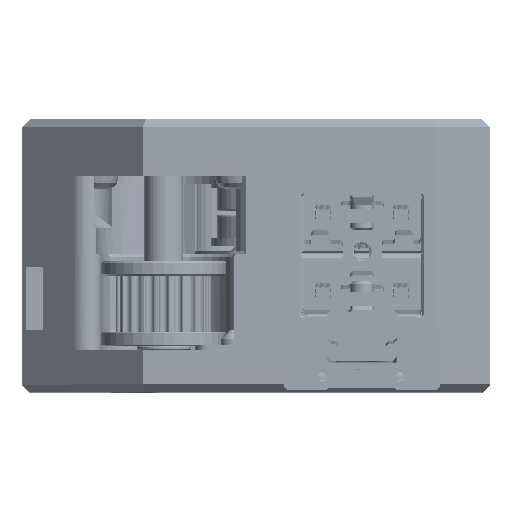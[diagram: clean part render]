
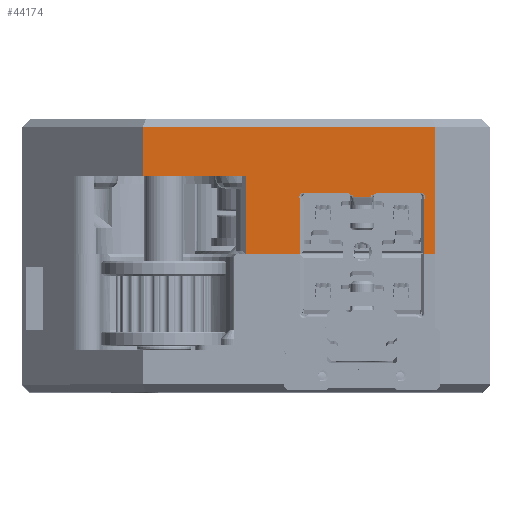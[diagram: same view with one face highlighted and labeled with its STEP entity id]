
A CAD part, top view. The second image highlights one B-rep face of the part: STEP entity #44174.
In plain terms, the highlighted planar face has unit normal (0, 0, 1).
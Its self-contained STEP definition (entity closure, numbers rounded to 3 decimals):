
#39=ELLIPSE('',#48546,0.227,0.1);
#40=ELLIPSE('',#48547,0.227,0.1);
#5403=FACE_OUTER_BOUND('',#7972,.T.);
#7972=EDGE_LOOP('',(#39953,#39954,#39955,#39956,#39957,#39958,#39959,#39960,
#39961,#39962,#39963,#39964,#39965,#39966,#39967,#39968,#39969,#39970));
#9912=CIRCLE('',#48544,0.55);
#9913=CIRCLE('',#48545,0.7);
#9914=CIRCLE('',#48548,0.7);
#9915=CIRCLE('',#48549,0.55);
#13210=LINE('',#133711,#16682);
#13224=LINE('',#133761,#16696);
#13269=LINE('',#133917,#16741);
#13270=LINE('',#133919,#16742);
#13271=LINE('',#133921,#16743);
#13272=LINE('',#133923,#16744);
#13273=LINE('',#133929,#16745);
#13274=LINE('',#133933,#16746);
#13275=LINE('',#133937,#16747);
#13276=LINE('',#133942,#16748);
#13277=LINE('',#133944,#16749);
#13278=LINE('',#133945,#16750);
#16682=VECTOR('',#59674,10.);
#16696=VECTOR('',#59708,10.);
#16741=VECTOR('',#59819,10.);
#16742=VECTOR('',#59820,10.);
#16743=VECTOR('',#59821,10.);
#16744=VECTOR('',#59822,10.);
#16745=VECTOR('',#59827,10.);
#16746=VECTOR('',#59830,10.);
#16747=VECTOR('',#59833,10.);
#16748=VECTOR('',#59838,10.);
#16749=VECTOR('',#59839,10.);
#16750=VECTOR('',#59840,10.);
#20994=VERTEX_POINT('',#133708);
#20995=VERTEX_POINT('',#133710);
#21014=VERTEX_POINT('',#133758);
#21015=VERTEX_POINT('',#133760);
#21062=VERTEX_POINT('',#133916);
#21063=VERTEX_POINT('',#133918);
#21064=VERTEX_POINT('',#133920);
#21065=VERTEX_POINT('',#133922);
#21066=VERTEX_POINT('',#133924);
#21067=VERTEX_POINT('',#133926);
#21068=VERTEX_POINT('',#133928);
#21069=VERTEX_POINT('',#133930);
#21070=VERTEX_POINT('',#133932);
#21071=VERTEX_POINT('',#133934);
#21072=VERTEX_POINT('',#133936);
#21073=VERTEX_POINT('',#133938);
#21074=VERTEX_POINT('',#133940);
#21075=VERTEX_POINT('',#133943);
#27315=EDGE_CURVE('',#20995,#20994,#13210,.T.);
#27338=EDGE_CURVE('',#21014,#21015,#13224,.T.);
#27405=EDGE_CURVE('',#21014,#21062,#13269,.T.);
#27406=EDGE_CURVE('',#21062,#21063,#13270,.T.);
#27407=EDGE_CURVE('',#21064,#21063,#13271,.T.);
#27408=EDGE_CURVE('',#21065,#21064,#13272,.T.);
#27409=EDGE_CURVE('',#21066,#21065,#9912,.T.);
#27410=EDGE_CURVE('',#21067,#21066,#9913,.T.);
#27411=EDGE_CURVE('',#21068,#21067,#13273,.T.);
#27412=EDGE_CURVE('',#21069,#21068,#39,.T.);
#27413=EDGE_CURVE('',#21070,#21069,#13274,.T.);
#27414=EDGE_CURVE('',#21071,#21070,#40,.T.);
#27415=EDGE_CURVE('',#21072,#21071,#13275,.T.);
#27416=EDGE_CURVE('',#21073,#21072,#9914,.T.);
#27417=EDGE_CURVE('',#21074,#21073,#9915,.T.);
#27418=EDGE_CURVE('',#20995,#21074,#13276,.T.);
#27419=EDGE_CURVE('',#21075,#20994,#13277,.T.);
#27420=EDGE_CURVE('',#21015,#21075,#13278,.T.);
#39953=ORIENTED_EDGE('',*,*,#27405,.T.);
#39954=ORIENTED_EDGE('',*,*,#27406,.T.);
#39955=ORIENTED_EDGE('',*,*,#27407,.F.);
#39956=ORIENTED_EDGE('',*,*,#27408,.F.);
#39957=ORIENTED_EDGE('',*,*,#27409,.F.);
#39958=ORIENTED_EDGE('',*,*,#27410,.F.);
#39959=ORIENTED_EDGE('',*,*,#27411,.F.);
#39960=ORIENTED_EDGE('',*,*,#27412,.F.);
#39961=ORIENTED_EDGE('',*,*,#27413,.F.);
#39962=ORIENTED_EDGE('',*,*,#27414,.F.);
#39963=ORIENTED_EDGE('',*,*,#27415,.F.);
#39964=ORIENTED_EDGE('',*,*,#27416,.F.);
#39965=ORIENTED_EDGE('',*,*,#27417,.F.);
#39966=ORIENTED_EDGE('',*,*,#27418,.F.);
#39967=ORIENTED_EDGE('',*,*,#27315,.T.);
#39968=ORIENTED_EDGE('',*,*,#27419,.F.);
#39969=ORIENTED_EDGE('',*,*,#27420,.F.);
#39970=ORIENTED_EDGE('',*,*,#27338,.F.);
#41908=PLANE('',#48543);
#44174=ADVANCED_FACE('',(#5403),#41908,.T.);
#48543=AXIS2_PLACEMENT_3D('',#133915,#59817,#59818);
#48544=AXIS2_PLACEMENT_3D('',#133925,#59823,#59824);
#48545=AXIS2_PLACEMENT_3D('',#133927,#59825,#59826);
#48546=AXIS2_PLACEMENT_3D('',#133931,#59828,#59829);
#48547=AXIS2_PLACEMENT_3D('',#133935,#59831,#59832);
#48548=AXIS2_PLACEMENT_3D('',#133939,#59834,#59835);
#48549=AXIS2_PLACEMENT_3D('',#133941,#59836,#59837);
#59674=DIRECTION('',(1.,0.,0.));
#59708=DIRECTION('',(0.,1.,0.));
#59817=DIRECTION('center_axis',(0.,0.,
1.));
#59818=DIRECTION('ref_axis',(1.,0.,0.));
#59819=DIRECTION('',(1.,0.,0.));
#59820=DIRECTION('',(0.,-1.,0.));
#59821=DIRECTION('',(-1.,0.,0.));
#59822=DIRECTION('',(0.,-1.,0.));
#59823=DIRECTION('center_axis',(0.,0.,
1.));
#59824=DIRECTION('ref_axis',(-0.447,0.894,0.));
#59825=DIRECTION('center_axis',(0.,0.,
-1.));
#59826=DIRECTION('ref_axis',(-0.316,-0.949,0.));
#59827=DIRECTION('',(-1.,0.,0.));
#59828=DIRECTION('center_axis',(0.,0.,
-1.));
#59829=DIRECTION('ref_axis',(0.196,-0.981,0.));
#59830=DIRECTION('',(-1.,0.,0.));
#59831=DIRECTION('center_axis',(0.,0.,
-1.));
#59832=DIRECTION('ref_axis',(-0.196,-0.981,0.));
#59833=DIRECTION('',(-1.,0.,0.));
#59834=DIRECTION('center_axis',(0.,0.,
-1.));
#59835=DIRECTION('ref_axis',(0.316,-0.949,0.));
#59836=DIRECTION('center_axis',(0.,0.,
1.));
#59837=DIRECTION('ref_axis',(0.447,0.894,0.));
#59838=DIRECTION('',(0.,1.,0.));
#59839=DIRECTION('',(0.,-1.,0.));
#59840=DIRECTION('',(1.,0.,0.));
#133708=CARTESIAN_POINT('',(17.,-16.25,37.));
#133710=CARTESIAN_POINT('',(15.6,-16.25,37.));
#133711=CARTESIAN_POINT('',(4.095,-16.25,37.));
#133758=CARTESIAN_POINT('',(-20.515,-6.25,37.));
#133760=CARTESIAN_POINT('',(-20.515,0.,37.));
#133761=CARTESIAN_POINT('',(-20.515,-12.75,37.));
#133915=CARTESIAN_POINT('Origin',(0.1,-9.,37.));
#133916=CARTESIAN_POINT('',(-7.32,-6.25,37.));
#133917=CARTESIAN_POINT('',(-2.95,-6.25,37.));
#133918=CARTESIAN_POINT('',(-7.32,-16.25,37.));
#133919=CARTESIAN_POINT('',(-7.32,-8.125,37.));
#133920=CARTESIAN_POINT('',(-0.4,-16.25,37.));
#133921=CARTESIAN_POINT('',(-4.28,-16.25,37.));
#133922=CARTESIAN_POINT('',(-0.4,-9.229,37.));
#133923=CARTESIAN_POINT('',(-0.4,-16.5,37.));
#133924=CARTESIAN_POINT('',(0.43,-8.56,37.));
#133925=CARTESIAN_POINT('Origin',(0.1,-9.,37.));
#133926=CARTESIAN_POINT('',(0.85,-8.7,37.));
#133927=CARTESIAN_POINT('Origin',(0.85,-8.,37.));
#133928=CARTESIAN_POINT('',(6.397,-8.7,37.));
#133929=CARTESIAN_POINT('',(3.825,-8.7,37.));
#133930=CARTESIAN_POINT('',(6.535,-8.929,37.));
#133931=CARTESIAN_POINT('Origin',(6.499,-8.706,37.));
#133932=CARTESIAN_POINT('',(8.665,-8.929,37.));
#133933=CARTESIAN_POINT('',(1.975,-8.929,37.));
#133934=CARTESIAN_POINT('',(8.803,-8.7,37.));
#133935=CARTESIAN_POINT('Origin',(8.701,-8.706,37.));
#133936=CARTESIAN_POINT('',(14.35,-8.7,37.));
#133937=CARTESIAN_POINT('',(3.825,-8.7,37.));
#133938=CARTESIAN_POINT('',(14.77,-8.56,37.));
#133939=CARTESIAN_POINT('Origin',(14.35,-8.,37.));
#133940=CARTESIAN_POINT('',(15.6,-9.229,37.));
#133941=CARTESIAN_POINT('Origin',(15.1,-9.,37.));
#133942=CARTESIAN_POINT('',(15.6,-16.5,37.));
#133943=CARTESIAN_POINT('',(17.,0.,37.));
#133944=CARTESIAN_POINT('',(17.,-12.75,37.));
#133945=CARTESIAN_POINT('',(3.825,0.,37.));
